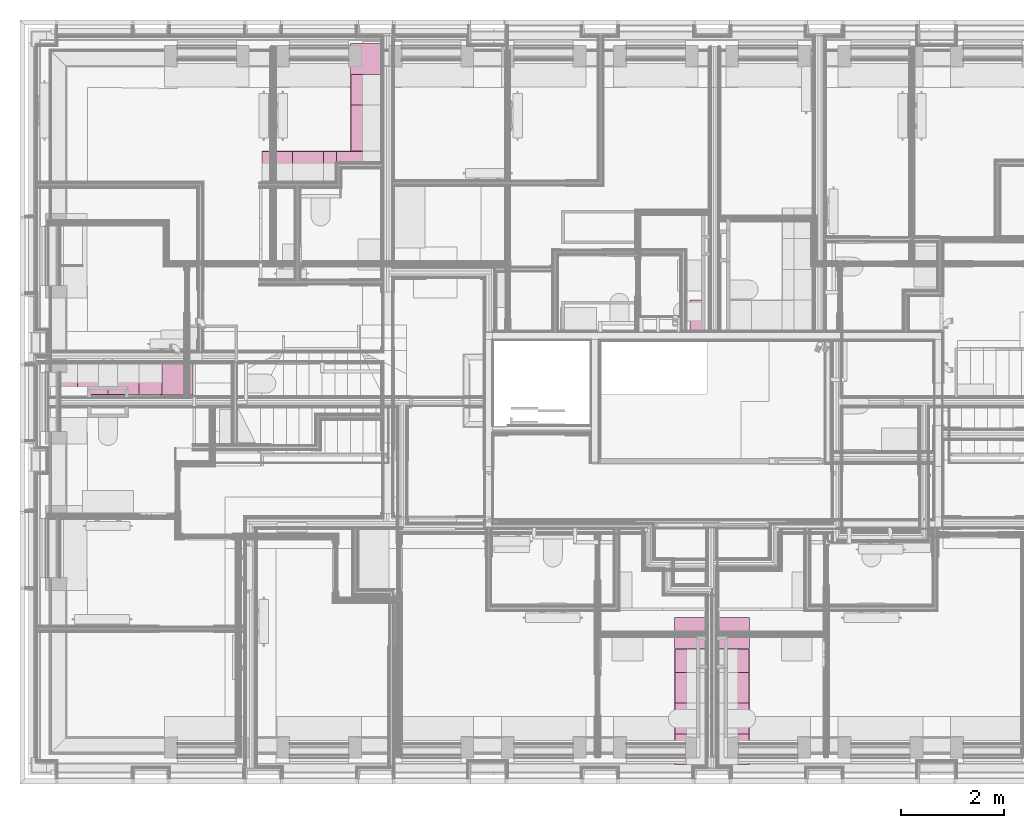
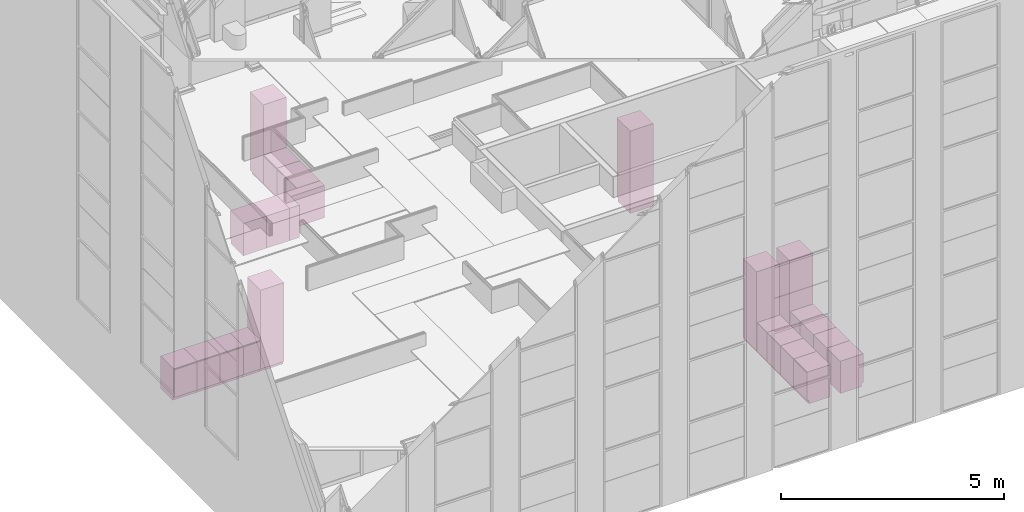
# One storey, part 167 of 169: 23 furnishings.
"""IFC2X3 building model written with IfcOpenShell, lengths in metres."""

from ifc_helpers import new_model, entity, si_unit, converted_unit, derived_unit, money_unit, direction, frame, origin_with_axes, place, context, subcontext, project, spatial, faceted_brep, material, type_object, element, save


model = new_model("IFC2X3")

# Units and contexts
model_context = context("Model", 3, precision=1e-05, world=origin_with_axes(), true_north=direction((0.0, 1.0)))
body_context = subcontext(model_context, "Body", "Model", "MODEL_VIEW", scale=1.0)
ifc_project = project(units=[si_unit("LENGTHUNIT", "METRE"), si_unit("AREAUNIT", "SQUARE_METRE"), si_unit("VOLUMEUNIT", "CUBIC_METRE"), si_unit("ABSORBEDDOSEUNIT", "GRAY"), si_unit("AMOUNTOFSUBSTANCEUNIT", "MOLE"), si_unit("DOSEEQUIVALENTUNIT", "SIEVERT"), si_unit("ELECTRICCAPACITANCEUNIT", "FARAD"), si_unit("ELECTRICCHARGEUNIT", "COULOMB"), si_unit("ELECTRICCONDUCTANCEUNIT", "SIEMENS"), si_unit("ELECTRICCURRENTUNIT", "AMPERE"), si_unit("ELECTRICRESISTANCEUNIT", "OHM"), si_unit("ELECTRICVOLTAGEUNIT", "VOLT"), si_unit("ENERGYUNIT", "JOULE"), si_unit("FORCEUNIT", "NEWTON"), si_unit("FREQUENCYUNIT", "HERTZ"), si_unit("ILLUMINANCEUNIT", "LUX"), si_unit("INDUCTANCEUNIT", "HENRY"), si_unit("LUMINOUSFLUXUNIT", "LUMEN"), si_unit("LUMINOUSINTENSITYUNIT", "CANDELA"), si_unit("MAGNETICFLUXDENSITYUNIT", "TESLA"), si_unit("MAGNETICFLUXUNIT", "WEBER"), si_unit("MASSUNIT", "GRAM"), converted_unit("PLANEANGLEUNIT", "degree", entity("IfcReal", 0.0174532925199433), si_unit("PLANEANGLEUNIT", "RADIAN"), dimensions=[0, 0, 0, 0, 0, 0, 0]), si_unit("POWERUNIT", "WATT"), si_unit("PRESSUREUNIT", "PASCAL"), si_unit("RADIOACTIVITYUNIT", "BECQUEREL"), si_unit("SOLIDANGLEUNIT", "STERADIAN"), si_unit("THERMODYNAMICTEMPERATUREUNIT", "KELVIN"), si_unit("TIMEUNIT", "SECOND"), derived_unit("ACCELERATIONUNIT", [(si_unit("LENGTHUNIT", "METRE"), 1), (si_unit("TIMEUNIT", "SECOND"), -2)]), derived_unit("ANGULARVELOCITYUNIT", [(converted_unit("PLANEANGLEUNIT", "degree", entity("IfcReal", 0.0174532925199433), si_unit("PLANEANGLEUNIT", "RADIAN"), dimensions=[0, 0, 0, 0, 0, 0, 0]), 1), (si_unit("TIMEUNIT", "SECOND"), -1)]), derived_unit("CURVATUREUNIT", [(converted_unit("PLANEANGLEUNIT", "degree", entity("IfcReal", 0.0174532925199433), si_unit("PLANEANGLEUNIT", "RADIAN"), dimensions=[0, 0, 0, 0, 0, 0, 0]), 1), (si_unit("LENGTHUNIT", "METRE"), -1)]), derived_unit("DYNAMICVISCOSITYUNIT", [(si_unit("PRESSUREUNIT", "PASCAL"), 1), (si_unit("TIMEUNIT", "SECOND"), 1)]), derived_unit("HEATFLUXDENSITYUNIT", [(si_unit("POWERUNIT", "WATT"), 1), (si_unit("LENGTHUNIT", "METRE"), -2)]), derived_unit("HEATINGVALUEUNIT", [(si_unit("ENERGYUNIT", "JOULE"), 1), (si_unit("MASSUNIT", "GRAM"), -1)]), derived_unit("INTEGERCOUNTRATEUNIT", [(si_unit("TIMEUNIT", "SECOND"), -1)]), derived_unit("IONCONCENTRATIONUNIT", [(si_unit("MASSUNIT", "GRAM"), 1), (si_unit("VOLUMEUNIT", "CUBIC_METRE"), -1)]), derived_unit("ISOTHERMALMOISTURECAPACITYUNIT", [(si_unit("VOLUMEUNIT", "CUBIC_METRE"), 1), (si_unit("MASSUNIT", "GRAM"), -1)]), derived_unit("KINEMATICVISCOSITYUNIT", [(si_unit("AREAUNIT", "SQUARE_METRE"), 1), (si_unit("TIMEUNIT", "SECOND"), -1)]), derived_unit("LINEARFORCEUNIT", [(si_unit("FORCEUNIT", "NEWTON"), 1), (si_unit("LENGTHUNIT", "METRE"), -1)]), derived_unit("LINEARMOMENTUNIT", [(si_unit("FORCEUNIT", "NEWTON"), 1), (si_unit("LENGTHUNIT", "METRE"), -1)]), derived_unit("LINEARSTIFFNESSUNIT", [(si_unit("FORCEUNIT", "NEWTON"), 1), (si_unit("LENGTHUNIT", "METRE"), -1)]), derived_unit("LINEARVELOCITYUNIT", [(si_unit("LENGTHUNIT", "METRE"), 1), (si_unit("TIMEUNIT", "SECOND"), -1)]), derived_unit("LUMINOUSINTENSITYDISTRIBUTIONUNIT", [(si_unit("LUMINOUSINTENSITYUNIT", "CANDELA"), 1), (si_unit("LUMINOUSFLUXUNIT", "LUMEN"), -1)]), derived_unit("MASSDENSITYUNIT", [(si_unit("MASSUNIT", "GRAM"), 1), (si_unit("VOLUMEUNIT", "CUBIC_METRE"), -1)]), derived_unit("MASSFLOWRATEUNIT", [(si_unit("MASSUNIT", "GRAM"), 1), (si_unit("TIMEUNIT", "SECOND"), -1)]), derived_unit("MASSPERLENGTHUNIT", [(si_unit("MASSUNIT", "GRAM"), 1), (si_unit("LENGTHUNIT", "METRE"), -1)]), derived_unit("MODULUSOFELASTICITYUNIT", [(si_unit("FORCEUNIT", "NEWTON"), 1), (si_unit("AREAUNIT", "SQUARE_METRE"), -1)]), derived_unit("MODULUSOFLINEARSUBGRADEREACTIONUNIT", [(si_unit("FORCEUNIT", "NEWTON"), 1), (si_unit("LENGTHUNIT", "METRE"), -2)]), derived_unit("MODULUSOFROTATIONALSUBGRADEREACTIONUNIT", [(si_unit("FORCEUNIT", "NEWTON"), 1), (si_unit("LENGTHUNIT", "METRE"), 1)]), derived_unit("MODULUSOFSUBGRADEREACTIONUNIT", [(si_unit("FORCEUNIT", "NEWTON"), 1), (si_unit("VOLUMEUNIT", "CUBIC_METRE"), -1)]), derived_unit("MOISTUREDIFFUSIVITYUNIT", [(si_unit("VOLUMEUNIT", "CUBIC_METRE"), 1), (si_unit("TIMEUNIT", "SECOND"), -1)]), derived_unit("MOLECULARWEIGHTUNIT", [(si_unit("MASSUNIT", "GRAM"), 1), (si_unit("AMOUNTOFSUBSTANCEUNIT", "MOLE"), -1)]), derived_unit("PLANARFORCEUNIT", [(si_unit("FORCEUNIT", "NEWTON"), 1), (si_unit("LENGTHUNIT", "METRE"), -2)]), derived_unit("ROTATIONALFREQUENCYUNIT", [(si_unit("TIMEUNIT", "SECOND"), -1)]), derived_unit("ROTATIONALMASSUNIT", [(si_unit("MASSUNIT", "GRAM"), 1), (si_unit("LENGTHUNIT", "METRE"), 2)]), derived_unit("ROTATIONALSTIFFNESSUNIT", [(si_unit("FORCEUNIT", "NEWTON"), 1), (si_unit("LENGTHUNIT", "METRE"), 1), (converted_unit("PLANEANGLEUNIT", "degree", entity("IfcReal", 0.0174532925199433), si_unit("PLANEANGLEUNIT", "RADIAN"), dimensions=[0, 0, 0, 0, 0, 0, 0]), -1)]), derived_unit("SECTIONAREAINTEGRALUNIT", [(si_unit("LENGTHUNIT", "METRE"), 5)]), derived_unit("SECTIONMODULUSUNIT", [(si_unit("LENGTHUNIT", "METRE"), 3)]), derived_unit("SHEARMODULUSUNIT", [(si_unit("FORCEUNIT", "NEWTON"), 1), (si_unit("AREAUNIT", "SQUARE_METRE"), -1)]), derived_unit("SOUNDPOWERUNIT", [(si_unit("ENERGYUNIT", "JOULE"), 1), (si_unit("TIMEUNIT", "SECOND"), -1)]), derived_unit("SPECIFICHEATCAPACITYUNIT", [(si_unit("FORCEUNIT", "NEWTON"), 1), (si_unit("MASSUNIT", "GRAM"), -1), (si_unit("THERMODYNAMICTEMPERATUREUNIT", "KELVIN"), -1)]), derived_unit("TEMPERATUREGRADIENTUNIT", [(si_unit("THERMODYNAMICTEMPERATUREUNIT", "KELVIN"), 1), (si_unit("LENGTHUNIT", "METRE"), -1)]), derived_unit("THERMALADMITTANCEUNIT", [(si_unit("POWERUNIT", "WATT"), 1), (si_unit("AREAUNIT", "SQUARE_METRE"), -1), (si_unit("THERMODYNAMICTEMPERATUREUNIT", "KELVIN"), -1)]), derived_unit("THERMALCONDUCTANCEUNIT", [(si_unit("POWERUNIT", "WATT"), 1), (si_unit("LENGTHUNIT", "METRE"), -1), (si_unit("THERMODYNAMICTEMPERATUREUNIT", "KELVIN"), -1)]), derived_unit("THERMALEXPANSIONCOEFFICIENTUNIT", [(si_unit("THERMODYNAMICTEMPERATUREUNIT", "KELVIN"), -1)]), derived_unit("THERMALRESISTANCEUNIT", [(si_unit("AREAUNIT", "SQUARE_METRE"), 1), (si_unit("POWERUNIT", "WATT"), -1)]), derived_unit("THERMALTRANSMITTANCEUNIT", [(si_unit("POWERUNIT", "WATT"), 1), (si_unit("AREAUNIT", "SQUARE_METRE"), -1), (si_unit("THERMODYNAMICTEMPERATUREUNIT", "KELVIN"), -1)]), derived_unit("TORQUEUNIT", [(si_unit("FORCEUNIT", "NEWTON"), 1), (si_unit("LENGTHUNIT", "METRE"), 1)]), derived_unit("VAPORPERMEABILITYUNIT", [(si_unit("MASSUNIT", "GRAM"), 1), (si_unit("TIMEUNIT", "SECOND"), -1)]), derived_unit("VOLUMETRICFLOWRATEUNIT", [(si_unit("VOLUMEUNIT", "CUBIC_METRE"), 1), (si_unit("TIMEUNIT", "SECOND"), -1)]), derived_unit("WARPINGCONSTANTUNIT", [(si_unit("LENGTHUNIT", "METRE"), 6)]), derived_unit("WARPINGMOMENTUNIT", [(si_unit("FORCEUNIT", "NEWTON"), 1), (si_unit("LENGTHUNIT", "METRE"), 2)]), money_unit("GBP")], contexts=[model_context])

# Site, building, storey, space
site_placement = place(None, origin_with_axes())
site = spatial("IfcSite", under=ifc_project, at=site_placement, Name="Site", CompositionType="ELEMENT")
building_placement = place(site_placement, origin_with_axes())
building = spatial("IfcBuilding", under=site, at=building_placement, Name="Building01", CompositionType="ELEMENT")
storey_placement = place(building_placement, frame((0.0, 0.0, 5.15), z_axis=(0.0, 0.0, 1.0), x_axis=(1.0, 0.0, 0.0)))
storey = spatial("IfcBuildingStorey", under=building, at=storey_placement, Name="1F", CompositionType="ELEMENT", Elevation=5.15)
space_1_placement = place(storey_placement, frame((7.064669, 7.111475, 0.017975), z_axis=(0.0, 0.0, 1.0), x_axis=(-1.0, 0.0, 0.0)))
space_1 = spatial("IfcSpace", under=storey, at=space_1_placement, Name="k/d/l", CompositionType="ELEMENT", InteriorOrExteriorSpace="NOTDEFINED")

# Furnishing
ifc_material = material(Name="A_BSUK_StorageScreening_Ffe")
furniture_type_1 = type_object("IfcFurnitureType", Name="SHE_A-Kitchenunit-Tall")
placement = place(storey_placement, frame((0.0, 0.0, -5.15), z_axis=(0.0, 0.0, 1.0), x_axis=(1.0, 0.0, 0.0)))
element("IfcFurnishingElement", 1, at=placement, inside=space_1, type_object=furniture_type_1, material=ifc_material, Name="06", ObjectType="SHE_A-Kitchenunit-Tall", context=body_context, shape_type="Brep", body=[
    faceted_brep([(2.77073, 8.18817, 7.414), (3.37073, 8.18817, 7.414), (3.37073, 8.18817, 5.154), (2.77073, 8.18817, 5.154), (3.37073, 7.58817, 7.414), (3.37073, 7.58817, 5.254), (3.37073, 7.63817, 5.254), (3.37073, 7.63817, 5.154), (2.77073, 7.63817, 5.254), (2.77073, 7.63817, 5.154), (2.77073, 7.58817, 5.254), (2.77073, 7.58817, 7.414)], [[[0, 1, 2, 3]], [[1, 4, 5, 6, 7, 2]], [[8, 9, 7, 6]], [[8, 10, 11, 0, 3, 9]], [[2, 7, 9, 3]], [[5, 4, 11, 10]], [[11, 4, 1, 0]], [[6, 5, 10, 8]]]),
])

# Space
space_2_placement = place(storey_placement, frame((11.375, 10.415, 0.017975), z_axis=(0.0, 0.0, 1.0), x_axis=(1.0, 0.0, 0.0)))
space_2 = spatial("IfcSpace", under=storey, at=space_2_placement, Name="k/d/l", CompositionType="ELEMENT", InteriorOrExteriorSpace="NOTDEFINED")

# Furnishing
element("IfcFurnishingElement", 2, at=placement, inside=space_2, type_object=furniture_type_1, material=ifc_material, Name="08", ObjectType="SHE_A-Kitchenunit-Tall", context=body_context, shape_type="Brep", body=[
    faceted_brep([(13.668132, 8.835, 7.414), (13.068132, 8.835, 7.414), (13.068132, 8.835, 5.154), (13.668132, 8.835, 5.154), (13.068132, 9.435, 7.414), (13.068132, 9.435, 5.254), (13.068132, 9.385, 5.254), (13.068132, 9.385, 5.154), (13.668132, 9.385, 5.254), (13.668132, 9.385, 5.154), (13.668132, 9.435, 5.254), (13.668132, 9.435, 7.414)], [[[0, 1, 2, 3]], [[1, 4, 5, 6, 7, 2]], [[8, 9, 7, 6]], [[8, 10, 11, 0, 3, 9]], [[2, 7, 9, 3]], [[5, 4, 11, 10]], [[11, 4, 1, 0]], [[6, 5, 10, 8]]]),
])

# Space
space_3_placement = place(storey_placement, frame((17.9025, 3.385, 0.017975), z_axis=(0.0, 0.0, 1.0), x_axis=(-1.0, 0.0, 0.0)))
space_3 = spatial("IfcSpace", under=storey, at=space_3_placement, Name="k/d/l", CompositionType="ELEMENT", InteriorOrExteriorSpace="NOTDEFINED")

# Furnishing
element("IfcFurnishingElement", 3, at=placement, inside=space_3, type_object=furniture_type_1, material=ifc_material, Name="04", ObjectType="SHE_A-Kitchenunit-Tall", context=body_context, shape_type="Brep", body=[
    faceted_brep([(13.631, 3.245001, 5.154), (13.631, 2.645001, 5.154), (13.631, 2.645001, 7.414), (13.631, 3.245001, 7.414), (14.181, 2.645001, 5.154), (14.181, 2.645001, 5.254), (14.231, 2.645001, 5.254), (14.231, 2.645001, 7.414), (14.181, 3.245001, 5.154), (14.181, 3.245001, 5.254), (14.231, 3.245001, 7.414), (14.231, 3.245001, 5.254)], [[[0, 1, 2, 3]], [[1, 4, 5, 6, 7, 2]], [[5, 4, 8, 9]], [[8, 0, 3, 10, 11, 9]], [[0, 8, 4, 1]], [[11, 10, 7, 6]], [[3, 2, 7, 10]], [[9, 11, 6, 5]]]),
])

# Space
space_4_placement = place(storey_placement, frame((12.15, 4.98, 0.017975), z_axis=(0.0, 0.0, 1.0), x_axis=(-1.0, 0.0, 0.0)))
space_4 = spatial("IfcSpace", under=storey, at=space_4_placement, Name="05", CompositionType="ELEMENT", InteriorOrExteriorSpace="NOTDEFINED")

# Furnishing
element("IfcFurnishingElement", 4, at=placement, inside=space_4, type_object=furniture_type_1, material=ifc_material, Name="05", ObjectType="SHE_A-Kitchenunit-Tall", context=body_context, shape_type="Brep", body=[
    faceted_brep([(13.369, 3.245001, 7.414), (13.369, 2.645001, 7.414), (13.369, 2.645001, 5.154), (13.369, 3.245001, 5.154), (12.769, 2.645001, 7.414), (12.769, 2.645001, 5.254), (12.819, 2.645001, 5.254), (12.819, 2.645001, 5.154), (12.819, 3.245001, 5.254), (12.819, 3.245001, 5.154), (12.769, 3.245001, 5.254), (12.769, 3.245001, 7.414)], [[[0, 1, 2, 3]], [[1, 4, 5, 6, 7, 2]], [[8, 9, 7, 6]], [[8, 10, 11, 0, 3, 9]], [[2, 7, 9, 3]], [[5, 4, 11, 10]], [[11, 4, 1, 0]], [[6, 5, 10, 8]]]),
])

# Space
space_5_placement = place(storey_placement, frame((0.318, 11.72567, 0.017975), z_axis=(0.0, 0.0, 1.0), x_axis=(1.0, 0.0, 0.0)))
space_5 = spatial("IfcSpace", under=storey, at=space_5_placement, Name="k/d/l", CompositionType="ELEMENT", InteriorOrExteriorSpace="NOTDEFINED")

# Furnishing
element("IfcFurnishingElement", 5, at=placement, inside=space_5, type_object=furniture_type_1, material=ifc_material, Name="07", ObjectType="SHE_A-Kitchenunit-Tall", context=body_context, shape_type="Brep", body=[
    faceted_brep([(7.049669, 13.84067, 5.154), (7.049669, 14.44067, 5.154), (7.049669, 14.44067, 7.414), (7.049669, 13.84067, 7.414), (6.499669, 14.44067, 5.154), (6.499669, 14.44067, 5.254), (6.449669, 14.44067, 5.254), (6.449669, 14.44067, 7.414), (6.499669, 13.84067, 5.154), (6.499669, 13.84067, 5.254), (6.449669, 13.84067, 7.414), (6.449669, 13.84067, 5.254)], [[[0, 1, 2, 3]], [[1, 4, 5, 6, 7, 2]], [[5, 4, 8, 9]], [[8, 0, 3, 10, 11, 9]], [[0, 8, 4, 1]], [[11, 10, 7, 6]], [[3, 2, 7, 10]], [[9, 11, 6, 5]]]),
])

# Space
space_6_placement = place(storey_placement, frame((0.318, 8.21067, 0.017975), z_axis=(0.0, 0.0, 1.0), x_axis=(0.0, -1.0, 0.0)))
space_6 = spatial("IfcSpace", under=storey, at=space_6_placement, Name="06", CompositionType="ELEMENT", InteriorOrExteriorSpace="NOTDEFINED")

# Furnishings
furniture_type_2 = type_object("IfcFurnitureType", Name="SHE_A-Kitchenunit-Base")
element("IfcFurnishingElement", 6, at=placement, inside=space_6, type_object=furniture_type_2, material=ifc_material, Name="06", ObjectType="SHE_A-Kitchenunit-Base", context=body_context, shape_type="Brep", body=[
    faceted_brep([(1.72073, 8.18817, 6.039), (2.32073, 8.18817, 6.039), (2.32073, 8.18817, 5.154), (1.72073, 8.18817, 5.154), (2.32073, 7.595241, 6.039), (2.32073, 7.58817, 6.031929), (2.32073, 7.58817, 6.021071), (2.32073, 7.595241, 6.014), (2.32073, 7.58817, 6.014), (2.32073, 7.58817, 5.254), (2.32073, 7.63817, 5.254), (2.32073, 7.63817, 5.154), (1.72073, 7.63817, 5.254), (1.72073, 7.63817, 5.154), (1.72073, 7.58817, 5.254), (1.72073, 7.58817, 6.014), (1.72073, 7.595241, 6.014), (1.72073, 7.58817, 6.021071), (1.72073, 7.58817, 6.031929), (1.72073, 7.595241, 6.039)], [[[0, 1, 2, 3]], [[1, 4, 5, 6, 7, 8, 9, 10, 11, 2]], [[12, 13, 11, 10]], [[12, 14, 15, 16, 17, 18, 19, 0, 3, 13]], [[2, 11, 13, 3]], [[7, 16, 15, 8]], [[9, 8, 15, 14]], [[10, 9, 14, 12]], [[5, 18, 17, 6]], [[19, 4, 1, 0]], [[6, 17, 16, 7]], [[4, 19, 18, 5]]]),
])
element("IfcFurnishingElement", 7, at=placement, inside=space_6, type_object=furniture_type_2, material=ifc_material, Name="06", ObjectType="SHE_A-Kitchenunit-Base", context=body_context, shape_type="Brep", body=[
    faceted_brep([(1.12073, 8.18817, 6.039), (1.72073, 8.18817, 6.039), (1.72073, 8.18817, 5.154), (1.12073, 8.18817, 5.154), (1.72073, 7.595241, 6.039), (1.72073, 7.58817, 6.031929), (1.72073, 7.58817, 6.021071), (1.72073, 7.595241, 6.014), (1.72073, 7.58817, 6.014), (1.72073, 7.58817, 5.254), (1.72073, 7.63817, 5.254), (1.72073, 7.63817, 5.154), (1.12073, 7.63817, 5.254), (1.12073, 7.63817, 5.154), (1.12073, 7.58817, 5.254), (1.12073, 7.58817, 6.014), (1.12073, 7.595241, 6.014), (1.12073, 7.58817, 6.021071), (1.12073, 7.58817, 6.031929), (1.12073, 7.595241, 6.039)], [[[0, 1, 2, 3]], [[1, 4, 5, 6, 7, 8, 9, 10, 11, 2]], [[12, 13, 11, 10]], [[12, 14, 15, 16, 17, 18, 19, 0, 3, 13]], [[2, 11, 13, 3]], [[7, 16, 15, 8]], [[9, 8, 15, 14]], [[10, 9, 14, 12]], [[5, 18, 17, 6]], [[19, 4, 1, 0]], [[6, 17, 16, 7]], [[4, 19, 18, 5]]]),
])
element("IfcFurnishingElement", 8, at=placement, inside=space_6, type_object=furniture_type_2, material=ifc_material, Name="06", ObjectType="SHE_A-Kitchenunit-Base", context=body_context, shape_type="Brep", body=[
    faceted_brep([(0.52073, 8.18817, 6.039), (1.12073, 8.18817, 6.039), (1.12073, 8.18817, 5.154), (0.52073, 8.18817, 5.154), (1.12073, 7.595241, 6.039), (1.12073, 7.58817, 6.031929), (1.12073, 7.58817, 6.021071), (1.12073, 7.595241, 6.014), (1.12073, 7.58817, 6.014), (1.12073, 7.58817, 5.254), (1.12073, 7.63817, 5.254), (1.12073, 7.63817, 5.154), (0.52073, 7.63817, 5.254), (0.52073, 7.63817, 5.154), (0.52073, 7.58817, 5.254), (0.52073, 7.58817, 6.014), (0.52073, 7.595241, 6.014), (0.52073, 7.58817, 6.021071), (0.52073, 7.58817, 6.031929), (0.52073, 7.595241, 6.039)], [[[0, 1, 2, 3]], [[1, 4, 5, 6, 7, 8, 9, 10, 11, 2]], [[12, 13, 11, 10]], [[12, 14, 15, 16, 17, 18, 19, 0, 3, 13]], [[2, 11, 13, 3]], [[7, 16, 15, 8]], [[9, 8, 15, 14]], [[10, 9, 14, 12]], [[5, 18, 17, 6]], [[19, 4, 1, 0]], [[6, 17, 16, 7]], [[4, 19, 18, 5]]]),
])
element("IfcFurnishingElement", 9, at=placement, inside=space_3, type_object=furniture_type_2, material=ifc_material, Name="04", ObjectType="SHE_A-Kitchenunit-Base", context=body_context, shape_type="Brep", body=[
    faceted_brep([(13.631, 2.175001, 5.154), (13.631, 1.575001, 5.154), (13.631, 1.575001, 6.039), (13.631, 2.175001, 6.039), (14.181, 1.575001, 5.154), (14.181, 1.575001, 5.254), (14.231, 1.575001, 5.254), (14.231, 1.575001, 6.014), (14.223929, 1.575001, 6.014), (14.231, 1.575001, 6.021071), (14.231, 1.575001, 6.031929), (14.223929, 1.575001, 6.039), (14.181, 2.175001, 5.154), (14.181, 2.175001, 5.254), (14.223929, 2.175001, 6.039), (14.231, 2.175001, 6.031929), (14.231, 2.175001, 6.021071), (14.223929, 2.175001, 6.014), (14.231, 2.175001, 6.014), (14.231, 2.175001, 5.254)], [[[0, 1, 2, 3]], [[1, 4, 5, 6, 7, 8, 9, 10, 11, 2]], [[5, 4, 12, 13]], [[12, 0, 3, 14, 15, 16, 17, 18, 19, 13]], [[0, 12, 4, 1]], [[7, 18, 17, 8]], [[19, 18, 7, 6]], [[13, 19, 6, 5]], [[9, 16, 15, 10]], [[3, 2, 11, 14]], [[8, 17, 16, 9]], [[10, 15, 14, 11]]]),
])
element("IfcFurnishingElement", 10, at=placement, inside=space_3, type_object=furniture_type_2, material=ifc_material, Name="04", ObjectType="SHE_A-Kitchenunit-Base", context=body_context, shape_type="Brep", body=[
    faceted_brep([(13.631, 1.575001, 5.154), (13.631, 0.975001, 5.154), (13.631, 0.975001, 6.039), (13.631, 1.575001, 6.039), (14.181, 0.975001, 5.154), (14.181, 0.975001, 5.254), (14.231, 0.975001, 5.254), (14.231, 0.975001, 6.014), (14.223929, 0.975001, 6.014), (14.231, 0.975001, 6.021071), (14.231, 0.975001, 6.031929), (14.223929, 0.975001, 6.039), (14.181, 1.575001, 5.154), (14.181, 1.575001, 5.254), (14.223929, 1.575001, 6.039), (14.231, 1.575001, 6.031929), (14.231, 1.575001, 6.021071), (14.223929, 1.575001, 6.014), (14.231, 1.575001, 6.014), (14.231, 1.575001, 5.254)], [[[0, 1, 2, 3]], [[1, 4, 5, 6, 7, 8, 9, 10, 11, 2]], [[5, 4, 12, 13]], [[12, 0, 3, 14, 15, 16, 17, 18, 19, 13]], [[0, 12, 4, 1]], [[7, 18, 17, 8]], [[19, 18, 7, 6]], [[13, 19, 6, 5]], [[9, 16, 15, 10]], [[3, 2, 11, 14]], [[8, 17, 16, 9]], [[10, 15, 14, 11]]]),
])
element("IfcFurnishingElement", 11, at=placement, inside=space_3, type_object=furniture_type_2, material=ifc_material, Name="04", ObjectType="SHE_A-Kitchenunit-Base", context=body_context, shape_type="Brep", body=[
    faceted_brep([(13.631, 0.975001, 5.154), (13.631, 0.375001, 5.154), (13.631, 0.375001, 6.039), (13.631, 0.975001, 6.039), (14.181, 0.375001, 5.154), (14.181, 0.375001, 5.254), (14.231, 0.375001, 5.254), (14.231, 0.375001, 6.014), (14.223929, 0.375001, 6.014), (14.231, 0.375001, 6.021071), (14.231, 0.375001, 6.031929), (14.223929, 0.375001, 6.039), (14.181, 0.975001, 5.154), (14.181, 0.975001, 5.254), (14.223929, 0.975001, 6.039), (14.231, 0.975001, 6.031929), (14.231, 0.975001, 6.021071), (14.223929, 0.975001, 6.014), (14.231, 0.975001, 6.014), (14.231, 0.975001, 5.254)], [[[0, 1, 2, 3]], [[1, 4, 5, 6, 7, 8, 9, 10, 11, 2]], [[5, 4, 12, 13]], [[12, 0, 3, 14, 15, 16, 17, 18, 19, 13]], [[0, 12, 4, 1]], [[7, 18, 17, 8]], [[19, 18, 7, 6]], [[13, 19, 6, 5]], [[9, 16, 15, 10]], [[3, 2, 11, 14]], [[8, 17, 16, 9]], [[10, 15, 14, 11]]]),
])
element("IfcFurnishingElement", 12, at=placement, inside=space_4, type_object=furniture_type_2, material=ifc_material, Name="05", ObjectType="SHE_A-Kitchenunit-Base", context=body_context, shape_type="Brep", body=[
    faceted_brep([(13.369, 1.575001, 6.039), (13.369, 0.975001, 6.039), (13.369, 0.975001, 5.154), (13.369, 1.575001, 5.154), (12.776071, 0.975001, 6.039), (12.769, 0.975001, 6.031929), (12.769, 0.975001, 6.021071), (12.776071, 0.975001, 6.014), (12.769, 0.975001, 6.014), (12.769, 0.975001, 5.254), (12.819, 0.975001, 5.254), (12.819, 0.975001, 5.154), (12.819, 1.575001, 5.254), (12.819, 1.575001, 5.154), (12.769, 1.575001, 5.254), (12.769, 1.575001, 6.014), (12.776071, 1.575001, 6.014), (12.769, 1.575001, 6.021071), (12.769, 1.575001, 6.031929), (12.776071, 1.575001, 6.039)], [[[0, 1, 2, 3]], [[1, 4, 5, 6, 7, 8, 9, 10, 11, 2]], [[12, 13, 11, 10]], [[12, 14, 15, 16, 17, 18, 19, 0, 3, 13]], [[2, 11, 13, 3]], [[7, 16, 15, 8]], [[9, 8, 15, 14]], [[10, 9, 14, 12]], [[5, 18, 17, 6]], [[19, 4, 1, 0]], [[6, 17, 16, 7]], [[4, 19, 18, 5]]]),
])
element("IfcFurnishingElement", 13, at=placement, inside=space_4, type_object=furniture_type_2, material=ifc_material, Name="05", ObjectType="SHE_A-Kitchenunit-Base", context=body_context, shape_type="Brep", body=[
    faceted_brep([(13.369, 0.975001, 6.039), (13.369, 0.375001, 6.039), (13.369, 0.375001, 5.154), (13.369, 0.975001, 5.154), (12.776071, 0.375001, 6.039), (12.769, 0.375001, 6.031929), (12.769, 0.375001, 6.021071), (12.776071, 0.375001, 6.014), (12.769, 0.375001, 6.014), (12.769, 0.375001, 5.254), (12.819, 0.375001, 5.254), (12.819, 0.375001, 5.154), (12.819, 0.975001, 5.254), (12.819, 0.975001, 5.154), (12.769, 0.975001, 5.254), (12.769, 0.975001, 6.014), (12.776071, 0.975001, 6.014), (12.769, 0.975001, 6.021071), (12.769, 0.975001, 6.031929), (12.776071, 0.975001, 6.039)], [[[0, 1, 2, 3]], [[1, 4, 5, 6, 7, 8, 9, 10, 11, 2]], [[12, 13, 11, 10]], [[12, 14, 15, 16, 17, 18, 19, 0, 3, 13]], [[2, 11, 13, 3]], [[7, 16, 15, 8]], [[9, 8, 15, 14]], [[10, 9, 14, 12]], [[5, 18, 17, 6]], [[19, 4, 1, 0]], [[6, 17, 16, 7]], [[4, 19, 18, 5]]]),
])
element("IfcFurnishingElement", 14, at=placement, inside=space_4, type_object=furniture_type_2, material=ifc_material, Name="05", ObjectType="SHE_A-Kitchenunit-Base", context=body_context, shape_type="Brep", body=[
    faceted_brep([(13.369, 2.175001, 6.039), (13.369, 1.575001, 6.039), (13.369, 1.575001, 5.154), (13.369, 2.175001, 5.154), (12.776071, 1.575001, 6.039), (12.769, 1.575001, 6.031929), (12.769, 1.575001, 6.021071), (12.776071, 1.575001, 6.014), (12.769, 1.575001, 6.014), (12.769, 1.575001, 5.254), (12.819, 1.575001, 5.254), (12.819, 1.575001, 5.154), (12.819, 2.175001, 5.254), (12.819, 2.175001, 5.154), (12.769, 2.175001, 5.254), (12.769, 2.175001, 6.014), (12.776071, 2.175001, 6.014), (12.769, 2.175001, 6.021071), (12.769, 2.175001, 6.031929), (12.776071, 2.175001, 6.039)], [[[0, 1, 2, 3]], [[1, 4, 5, 6, 7, 8, 9, 10, 11, 2]], [[12, 13, 11, 10]], [[12, 14, 15, 16, 17, 18, 19, 0, 3, 13]], [[2, 11, 13, 3]], [[7, 16, 15, 8]], [[9, 8, 15, 14]], [[10, 9, 14, 12]], [[5, 18, 17, 6]], [[19, 4, 1, 0]], [[6, 17, 16, 7]], [[4, 19, 18, 5]]]),
])
element("IfcFurnishingElement", 15, at=placement, inside=space_5, type_object=furniture_type_2, material=ifc_material, Name="07", ObjectType="SHE_A-Kitchenunit-Base", context=body_context, shape_type="Brep", body=[
    faceted_brep([(7.049669, 13.24067, 5.154), (7.049669, 13.84067, 5.154), (7.049669, 13.84067, 6.039), (7.049669, 13.24067, 6.039), (6.499669, 13.84067, 5.154), (6.499669, 13.84067, 5.254), (6.449669, 13.84067, 5.254), (6.449669, 13.84067, 6.014), (6.45674, 13.84067, 6.014), (6.449669, 13.84067, 6.021071), (6.449669, 13.84067, 6.031929), (6.45674, 13.84067, 6.039), (6.499669, 13.24067, 5.154), (6.499669, 13.24067, 5.254), (6.45674, 13.24067, 6.039), (6.449669, 13.24067, 6.031929), (6.449669, 13.24067, 6.021071), (6.45674, 13.24067, 6.014), (6.449669, 13.24067, 6.014), (6.449669, 13.24067, 5.254)], [[[0, 1, 2, 3]], [[1, 4, 5, 6, 7, 8, 9, 10, 11, 2]], [[5, 4, 12, 13]], [[12, 0, 3, 14, 15, 16, 17, 18, 19, 13]], [[0, 12, 4, 1]], [[7, 18, 17, 8]], [[19, 18, 7, 6]], [[13, 19, 6, 5]], [[9, 16, 15, 10]], [[3, 2, 11, 14]], [[8, 17, 16, 9]], [[10, 15, 14, 11]]]),
])
element("IfcFurnishingElement", 16, at=placement, inside=space_5, type_object=furniture_type_2, material=ifc_material, Name="07", ObjectType="SHE_A-Kitchenunit-Base", context=body_context, shape_type="Brep", body=[
    faceted_brep([(4.719669, 11.74067, 5.154), (5.319669, 11.74067, 5.154), (5.319669, 11.74067, 6.039), (4.719669, 11.74067, 6.039), (5.319669, 12.29067, 5.154), (5.319669, 12.29067, 5.254), (5.319669, 12.34067, 5.254), (5.319669, 12.34067, 6.014), (5.319669, 12.333599, 6.014), (5.319669, 12.34067, 6.021071), (5.319669, 12.34067, 6.031929), (5.319669, 12.333599, 6.039), (4.719669, 12.29067, 5.154), (4.719669, 12.29067, 5.254), (4.719669, 12.333599, 6.039), (4.719669, 12.34067, 6.031929), (4.719669, 12.34067, 6.021071), (4.719669, 12.333599, 6.014), (4.719669, 12.34067, 6.014), (4.719669, 12.34067, 5.254)], [[[0, 1, 2, 3]], [[1, 4, 5, 6, 7, 8, 9, 10, 11, 2]], [[5, 4, 12, 13]], [[12, 0, 3, 14, 15, 16, 17, 18, 19, 13]], [[0, 12, 4, 1]], [[7, 18, 17, 8]], [[19, 18, 7, 6]], [[13, 19, 6, 5]], [[9, 16, 15, 10]], [[3, 2, 11, 14]], [[8, 17, 16, 9]], [[10, 15, 14, 11]]]),
])

# Space
space_7_placement = place(storey_placement, frame((7.064669, 14.582, 0.017975), z_axis=(0.0, 0.0, 1.0), x_axis=(-1.0, 0.0, 0.0)))
space_7 = spatial("IfcSpace", under=storey, at=space_7_placement, Name="07", CompositionType="ELEMENT", InteriorOrExteriorSpace="NOTDEFINED")

# Furnishings
element("IfcFurnishingElement", 17, at=placement, inside=space_7, type_object=furniture_type_2, material=ifc_material, Name="07", ObjectType="SHE_A-Kitchenunit-Base", context=body_context, shape_type="Brep", body=[
    faceted_brep([(7.049669, 12.34067, 5.154), (7.049669, 13.24067, 5.154), (7.049669, 13.24067, 6.039), (7.049669, 12.34067, 6.039), (6.499669, 13.24067, 5.154), (6.499669, 13.24067, 5.254), (6.449669, 13.24067, 5.254), (6.449669, 13.24067, 6.014), (6.45674, 13.24067, 6.014), (6.449669, 13.24067, 6.021071), (6.449669, 13.24067, 6.031929), (6.45674, 13.24067, 6.039), (6.499669, 12.34067, 5.154), (6.499669, 12.34067, 5.254), (6.45674, 12.34067, 6.039), (6.449669, 12.34067, 6.031929), (6.449669, 12.34067, 6.021071), (6.45674, 12.34067, 6.014), (6.449669, 12.34067, 6.014), (6.449669, 12.34067, 5.254)], [[[0, 1, 2, 3]], [[1, 4, 5, 6, 7, 8, 9, 10, 11, 2]], [[5, 4, 12, 13]], [[12, 0, 3, 14, 15, 16, 17, 18, 19, 13]], [[0, 12, 4, 1]], [[7, 18, 17, 8]], [[19, 18, 7, 6]], [[13, 19, 6, 5]], [[9, 16, 15, 10]], [[3, 2, 11, 14]], [[8, 17, 16, 9]], [[10, 15, 14, 11]]]),
])
element("IfcFurnishingElement", 18, at=placement, inside=space_5, type_object=furniture_type_2, material=ifc_material, Name="07", ObjectType="SHE_A-Kitchenunit-Base", context=body_context, shape_type="Brep", body=[
    faceted_brep([(5.319669, 11.74067, 5.154), (5.919669, 11.74067, 5.154), (5.919669, 11.74067, 6.039), (5.319669, 11.74067, 6.039), (5.919669, 12.29067, 5.154), (5.919669, 12.29067, 5.254), (5.919669, 12.34067, 5.254), (5.919669, 12.34067, 6.014), (5.919669, 12.333599, 6.014), (5.919669, 12.34067, 6.021071), (5.919669, 12.34067, 6.031929), (5.919669, 12.333599, 6.039), (5.319669, 12.29067, 5.154), (5.319669, 12.29067, 5.254), (5.319669, 12.333599, 6.039), (5.319669, 12.34067, 6.031929), (5.319669, 12.34067, 6.021071), (5.319669, 12.333599, 6.014), (5.319669, 12.34067, 6.014), (5.319669, 12.34067, 5.254)], [[[0, 1, 2, 3]], [[1, 4, 5, 6, 7, 8, 9, 10, 11, 2]], [[5, 4, 12, 13]], [[12, 0, 3, 14, 15, 16, 17, 18, 19, 13]], [[0, 12, 4, 1]], [[7, 18, 17, 8]], [[19, 18, 7, 6]], [[13, 19, 6, 5]], [[9, 16, 15, 10]], [[3, 2, 11, 14]], [[8, 17, 16, 9]], [[10, 15, 14, 11]]]),
])
element("IfcFurnishingElement", 19, at=placement, inside=space_5, type_object=furniture_type_2, material=ifc_material, Name="07", ObjectType="SHE_A-Kitchenunit-Base", context=body_context, shape_type="Brep", body=[
    faceted_brep([(5.919669, 11.74067, 5.154), (6.169669, 11.74067, 5.154), (6.169669, 11.74067, 6.039), (5.919669, 11.74067, 6.039), (6.169669, 12.29067, 5.154), (6.169669, 12.29067, 5.254), (6.169669, 12.34067, 5.254), (6.169669, 12.34067, 6.014), (6.169669, 12.337724, 6.014), (6.169669, 12.34067, 6.016946), (6.169669, 12.34067, 6.036054), (6.169669, 12.337724, 6.039), (5.919669, 12.29067, 5.154), (5.919669, 12.29067, 5.254), (5.919669, 12.337724, 6.039), (5.919669, 12.34067, 6.036054), (5.919669, 12.34067, 6.016946), (5.919669, 12.337724, 6.014), (5.919669, 12.34067, 6.014), (5.919669, 12.34067, 5.254)], [[[0, 1, 2, 3]], [[1, 4, 5, 6, 7, 8, 9, 10, 11, 2]], [[5, 4, 12, 13]], [[12, 0, 3, 14, 15, 16, 17, 18, 19, 13]], [[0, 12, 4, 1]], [[7, 18, 17, 8]], [[19, 18, 7, 6]], [[13, 19, 6, 5]], [[9, 16, 15, 10]], [[3, 2, 11, 14]], [[8, 17, 16, 9]], [[10, 15, 14, 11]]]),
])
element("IfcFurnishingElement", 20, at=placement, inside=space_5, type_object=furniture_type_2, material=ifc_material, Name="07", ObjectType="SHE_A-Kitchenunit-Base", context=body_context, shape_type="Brep", body=[
    faceted_brep([(6.169669, 12.12567, 5.154), (7.039792, 12.12567, 5.154), (7.039792, 12.12567, 5.254), (7.049669, 12.12567, 5.254), (7.049669, 12.12567, 6.039), (6.169669, 12.12567, 6.039), (7.039792, 12.29067, 5.154), (7.039792, 12.29067, 5.254), (6.169669, 12.29067, 5.154), (6.169669, 12.29067, 5.254), (6.169669, 12.337724, 6.039), (6.169669, 12.34067, 6.036054), (6.169669, 12.34067, 6.016946), (6.169669, 12.337724, 6.014), (6.169669, 12.34067, 6.014), (6.169669, 12.34067, 5.254), (7.049669, 12.34067, 6.014), (7.049669, 12.337724, 6.014), (7.049669, 12.34067, 5.254), (7.049669, 12.34067, 6.016946), (7.049669, 12.34067, 6.036054), (7.049669, 12.337724, 6.039)], [[[0, 1, 2, 3, 4, 5]], [[2, 1, 6, 7]], [[7, 6, 8, 9]], [[8, 0, 5, 10, 11, 12, 13, 14, 15, 9]], [[0, 8, 6, 1]], [[16, 14, 13, 17]], [[15, 14, 16, 18]], [[18, 16, 17, 19, 20, 21, 4, 3]], [[9, 15, 18, 3, 2, 7]], [[19, 12, 11, 20]], [[5, 4, 21, 10]], [[17, 13, 12, 19]], [[20, 11, 10, 21]]]),
])
furniture_type_3 = type_object("IfcFurnitureType", Name="SHE_A-Kitchenunit-Base60x45")
element("IfcFurnishingElement", 21, at=placement, inside=space_3, type_object=furniture_type_3, material=ifc_material, Name="04", ObjectType="SHE_A-Kitchenunit-Base60x45", context=body_context, shape_type="Brep", body=[
    faceted_brep([(13.631, 2.175001, 6.039), (13.631, 2.625001, 6.039), (13.631, 2.625001, 5.154), (13.631, 2.175001, 5.154), (14.223929, 2.625001, 6.039), (14.231, 2.625001, 6.031929), (14.231, 2.625001, 6.021071), (14.223929, 2.625001, 6.014), (14.231, 2.625001, 6.014), (14.231, 2.625001, 5.254), (14.181, 2.625001, 5.254), (14.181, 2.625001, 5.154), (14.181, 2.175001, 5.254), (14.181, 2.175001, 5.154), (14.231, 2.175001, 5.254), (14.231, 2.175001, 6.014), (14.223929, 2.175001, 6.014), (14.231, 2.175001, 6.021071), (14.231, 2.175001, 6.031929), (14.223929, 2.175001, 6.039)], [[[0, 1, 2, 3]], [[1, 4, 5, 6, 7, 8, 9, 10, 11, 2]], [[12, 13, 11, 10]], [[12, 14, 15, 16, 17, 18, 19, 0, 3, 13]], [[2, 11, 13, 3]], [[7, 16, 15, 8]], [[9, 8, 15, 14]], [[10, 9, 14, 12]], [[5, 18, 17, 6]], [[19, 4, 1, 0]], [[6, 17, 16, 7]], [[4, 19, 18, 5]]]),
])
element("IfcFurnishingElement", 22, at=placement, inside=space_4, type_object=furniture_type_3, material=ifc_material, Name="05", ObjectType="SHE_A-Kitchenunit-Base60x45", context=body_context, shape_type="Brep", body=[
    faceted_brep([(13.369, 2.175001, 5.154), (13.369, 2.625001, 5.154), (13.369, 2.625001, 6.039), (13.369, 2.175001, 6.039), (12.819, 2.625001, 5.154), (12.819, 2.625001, 5.254), (12.769, 2.625001, 5.254), (12.769, 2.625001, 6.014), (12.776071, 2.625001, 6.014), (12.769, 2.625001, 6.021071), (12.769, 2.625001, 6.031929), (12.776071, 2.625001, 6.039), (12.819, 2.175001, 5.154), (12.819, 2.175001, 5.254), (12.776071, 2.175001, 6.039), (12.769, 2.175001, 6.031929), (12.769, 2.175001, 6.021071), (12.776071, 2.175001, 6.014), (12.769, 2.175001, 6.014), (12.769, 2.175001, 5.254)], [[[0, 1, 2, 3]], [[1, 4, 5, 6, 7, 8, 9, 10, 11, 2]], [[5, 4, 12, 13]], [[12, 0, 3, 14, 15, 16, 17, 18, 19, 13]], [[0, 12, 4, 1]], [[7, 18, 17, 8]], [[19, 18, 7, 6]], [[13, 19, 6, 5]], [[9, 16, 15, 10]], [[3, 2, 11, 14]], [[8, 17, 16, 9]], [[10, 15, 14, 11]]]),
])
element("IfcFurnishingElement", 23, at=placement, inside=space_6, type_object=furniture_type_3, material=ifc_material, Name="06", ObjectType="SHE_A-Kitchenunit-Base60x45", context=body_context, shape_type="Brep", body=[
    faceted_brep([(2.32073, 8.18817, 6.039), (2.77073, 8.18817, 6.039), (2.77073, 8.18817, 5.154), (2.32073, 8.18817, 5.154), (2.77073, 7.595241, 6.039), (2.77073, 7.58817, 6.031929), (2.77073, 7.58817, 6.021071), (2.77073, 7.595241, 6.014), (2.77073, 7.58817, 6.014), (2.77073, 7.58817, 5.254), (2.77073, 7.63817, 5.254), (2.77073, 7.63817, 5.154), (2.32073, 7.63817, 5.254), (2.32073, 7.63817, 5.154), (2.32073, 7.58817, 5.254), (2.32073, 7.58817, 6.014), (2.32073, 7.595241, 6.014), (2.32073, 7.58817, 6.021071), (2.32073, 7.58817, 6.031929), (2.32073, 7.595241, 6.039)], [[[0, 1, 2, 3]], [[1, 4, 5, 6, 7, 8, 9, 10, 11, 2]], [[12, 13, 11, 10]], [[12, 14, 15, 16, 17, 18, 19, 0, 3, 13]], [[2, 11, 13, 3]], [[7, 16, 15, 8]], [[9, 8, 15, 14]], [[10, 9, 14, 12]], [[5, 18, 17, 6]], [[19, 4, 1, 0]], [[6, 17, 16, 7]], [[4, 19, 18, 5]]]),
])

save(model, "model.ifc")
